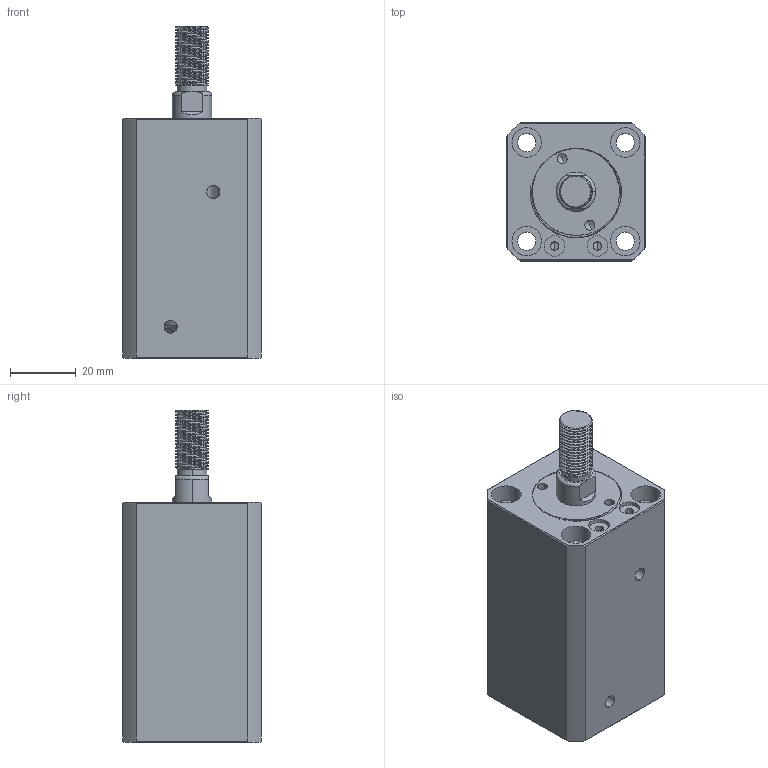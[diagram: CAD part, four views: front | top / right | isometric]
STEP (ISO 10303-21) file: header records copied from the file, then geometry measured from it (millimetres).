
FILE_DESCRIPTION (( 'STEP AP214' ), '1' );
FILE_NAME ('chtb-sdma20x30w_asm.STEP', '2018-05-18T04:16:42', ( 'Windows' ), ( 'Microsoft' ), 'SwSTEP 2.0', 'SolidWorks 2015', '' );
FILE_SCHEMA (( 'AUTOMOTIVE_DESIGN' ));
Length unit declared in the file: millimetre
Products named in the file (4): QG_3; CHTB-SDMA20X30WHSG; CHTB-SDMA20X30NBT; chtb-sdma20x30w_asm
Assembly tree (3 placements, depth 2):
  chtb-sdma20x30w_asm
    CHTB-SDMA20X30NBT
    CHTB-SDMA20X30WHSG
    QG_3
Bounding box: 42 x 42 x 101 mm (x, y, z)
Volume: 111867.3 mm3; surface area: 35286.3 mm2
Topology: 3 solids, 3 shells, 247 faces, 671 edges, 446 vertices
Faces by surface type: cylinder 144, plane 48, torus 25, bspline 23, cone 7
Entity records: 14895 total; most frequent: CARTESIAN_POINT 9018, ORIENTED_EDGE 1334, DIRECTION 1075, EDGE_CURVE 667, VERTEX_POINT 446, AXIS2_PLACEMENT_3D 441, EDGE_LOOP 285, FACE_OUTER_BOUND 247
